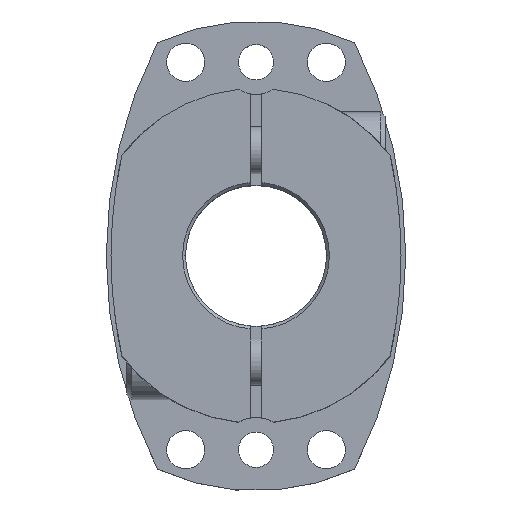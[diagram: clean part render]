
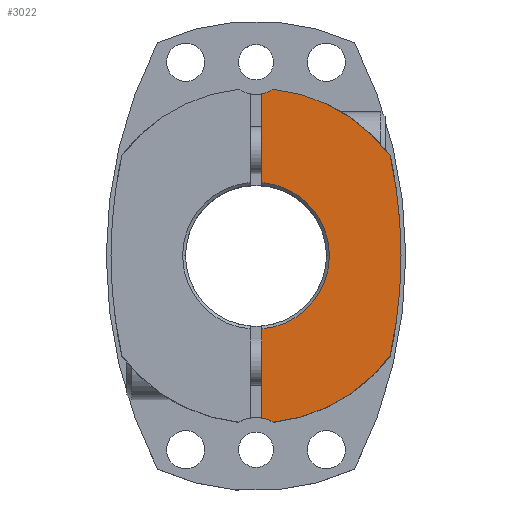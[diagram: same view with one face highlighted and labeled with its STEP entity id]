
A CAD part, top view. The second image highlights one B-rep face of the part: STEP entity #3022.
In plain terms, the highlighted planar face has unit normal (0, 0, 1).
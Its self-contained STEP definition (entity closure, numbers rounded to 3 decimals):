
#373=CARTESIAN_POINT('',(12.5,0.,25.5));
#374=VERTEX_POINT('',#373);
#381=CARTESIAN_POINT('',(1.,12.46,25.5));
#382=VERTEX_POINT('',#381);
#383=CARTESIAN_POINT('',(0.,0.,25.5));
#384=DIRECTION('',(0.0,0.0,1.0));
#385=DIRECTION('',(-1.0,0.0,0.0));
#386=AXIS2_PLACEMENT_3D('',#383,#384,#385);
#387=CIRCLE('',#386,12.5);
#388=EDGE_CURVE('',#374,#382,#387,.T.);
#537=CARTESIAN_POINT('',(24.7,0.,25.5));
#538=VERTEX_POINT('',#537);
#634=CARTESIAN_POINT('',(22.845,17.039,25.5));
#635=VERTEX_POINT('',#634);
#642=CARTESIAN_POINT('',(-54.5,0.,25.5));
#643=DIRECTION('',(0.0,0.0,-1.0));
#644=DIRECTION('',(1.0,0.0,0.0));
#645=AXIS2_PLACEMENT_3D('',#642,#643,#644);
#646=CIRCLE('',#645,79.2);
#647=EDGE_CURVE('',#635,#538,#646,.T.);
#2323=CARTESIAN_POINT('',(2.935,28.348,25.5));
#2324=VERTEX_POINT('',#2323);
#2331=CARTESIAN_POINT('',(0.,0.,25.5));
#2332=DIRECTION('',(0.0,0.0,-1.0));
#2333=DIRECTION('',(1.0,0.0,0.0));
#2334=AXIS2_PLACEMENT_3D('',#2331,#2332,#2333);
#2335=CIRCLE('',#2334,28.5);
#2336=EDGE_CURVE('',#2324,#635,#2335,.T.);
#2563=CARTESIAN_POINT('',(22.845,-17.039,25.5));
#2564=VERTEX_POINT('',#2563);
#2565=CARTESIAN_POINT('',(-54.5,0.,25.5));
#2566=DIRECTION('',(0.0,0.0,-1.0));
#2567=DIRECTION('',(1.0,0.0,0.0));
#2568=AXIS2_PLACEMENT_3D('',#2565,#2566,#2567);
#2569=CIRCLE('',#2568,79.2);
#2570=EDGE_CURVE('',#538,#2564,#2569,.T.);
#2687=CARTESIAN_POINT('',(1.,-27.592,25.5));
#2688=VERTEX_POINT('',#2687);
#2704=CARTESIAN_POINT('',(2.935,-28.348,25.5));
#2705=VERTEX_POINT('',#2704);
#2712=CARTESIAN_POINT('',(0.,-33.,25.5));
#2713=DIRECTION('',(0.0,0.0,-1.0));
#2714=DIRECTION('',(1.0,0.0,0.0));
#2715=AXIS2_PLACEMENT_3D('',#2712,#2713,#2714);
#2716=CIRCLE('',#2715,5.5);
#2717=EDGE_CURVE('',#2688,#2705,#2716,.T.);
#2896=CARTESIAN_POINT('',(1.,27.592,25.5));
#2897=VERTEX_POINT('',#2896);
#2904=CARTESIAN_POINT('',(0.,33.,25.5));
#2905=DIRECTION('',(0.0,0.0,-1.0));
#2906=DIRECTION('',(1.0,0.0,0.0));
#2907=AXIS2_PLACEMENT_3D('',#2904,#2905,#2906);
#2908=CIRCLE('',#2907,5.5);
#2909=EDGE_CURVE('',#2324,#2897,#2908,.T.);
#2944=CARTESIAN_POINT('',(1.,-12.46,25.5));
#2945=VERTEX_POINT('',#2944);
#2946=CARTESIAN_POINT('',(1.,-12.46,25.5));
#2947=DIRECTION('',(0.0,-1.0,0.0));
#2948=VECTOR('',#2947,15.132);
#2949=LINE('',#2946,#2948);
#2950=EDGE_CURVE('',#2945,#2688,#2949,.T.);
#2988=CARTESIAN_POINT('',(0.,0.,25.5));
#2989=DIRECTION('',(0.0,0.0,1.0));
#2990=DIRECTION('',(1.0,0.0,0.0));
#2991=AXIS2_PLACEMENT_3D('',#2988,#2989,#2990);
#2992=PLANE('',#2991);
#2993=ORIENTED_EDGE('',*,*,#2717,.T.);
#2994=CARTESIAN_POINT('',(0.,0.,25.5));
#2995=DIRECTION('',(0.0,0.0,-1.0));
#2996=DIRECTION('',(1.0,0.0,0.0));
#2997=AXIS2_PLACEMENT_3D('',#2994,#2995,#2996);
#2998=CIRCLE('',#2997,28.5);
#2999=EDGE_CURVE('',#2564,#2705,#2998,.T.);
#3000=ORIENTED_EDGE('',*,*,#2999,.F.);
#3001=ORIENTED_EDGE('',*,*,#2570,.F.);
#3002=ORIENTED_EDGE('',*,*,#647,.F.);
#3003=ORIENTED_EDGE('',*,*,#2336,.F.);
#3004=ORIENTED_EDGE('',*,*,#2909,.T.);
#3005=CARTESIAN_POINT('',(1.,27.592,25.5));
#3006=DIRECTION('',(0.0,-1.0,0.0));
#3007=VECTOR('',#3006,15.132);
#3008=LINE('',#3005,#3007);
#3009=EDGE_CURVE('',#2897,#382,#3008,.T.);
#3010=ORIENTED_EDGE('',*,*,#3009,.T.);
#3011=ORIENTED_EDGE('',*,*,#388,.F.);
#3012=CARTESIAN_POINT('',(0.,0.,25.5));
#3013=DIRECTION('',(0.0,0.0,1.0));
#3014=DIRECTION('',(-1.0,0.0,0.0));
#3015=AXIS2_PLACEMENT_3D('',#3012,#3013,#3014);
#3016=CIRCLE('',#3015,12.5);
#3017=EDGE_CURVE('',#2945,#374,#3016,.T.);
#3018=ORIENTED_EDGE('',*,*,#3017,.F.);
#3019=ORIENTED_EDGE('',*,*,#2950,.T.);
#3020=EDGE_LOOP('',(#2993,#3000,#3001,#3002,#3003,#3004,#3010,#3011,#3018,#3019));
#3021=FACE_OUTER_BOUND('',#3020,.T.);
#3022=ADVANCED_FACE('',(#3021),#2992,.T.);
